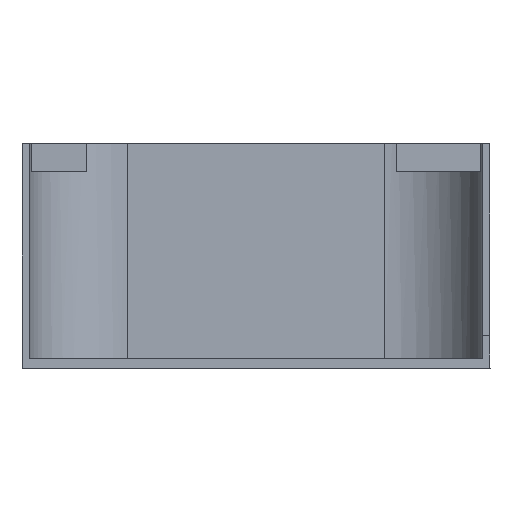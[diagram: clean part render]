
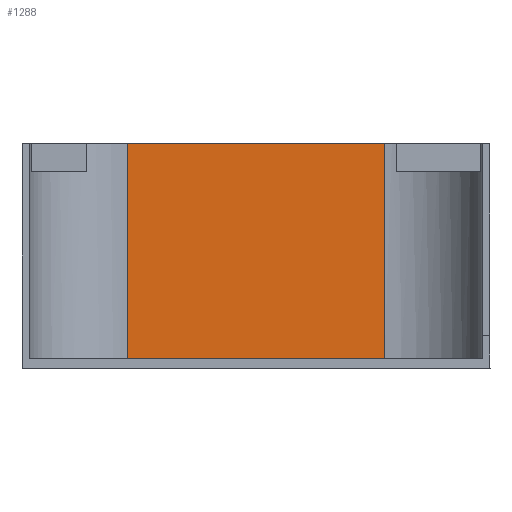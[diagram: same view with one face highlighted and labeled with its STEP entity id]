
A CAD part, left-side view. The second image highlights one B-rep face of the part: STEP entity #1288.
In plain terms, the highlighted planar face has unit normal (-1, 0, 0).
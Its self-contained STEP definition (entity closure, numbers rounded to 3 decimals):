
#118=CARTESIAN_POINT('',(317.,-55.,96.));
#119=VERTEX_POINT('',#118);
#122=DIRECTION('',(0.0,1.0,0.));
#123=VECTOR('',#122,110.0);
#124=LINE('',#118,#123);
#125=CARTESIAN_POINT('',(317.,55.,96.));
#126=VERTEX_POINT('',#125);
#127=EDGE_CURVE('',#119,#126,#124,.T.);
#583=CARTESIAN_POINT('',(317.0,55.,4.));
#584=VERTEX_POINT('',#583);
#587=DIRECTION('',(0.0,-1.0,0.));
#588=VECTOR('',#587,110.0);
#589=LINE('',#583,#588);
#590=CARTESIAN_POINT('',(317.0,-55.,4.));
#591=VERTEX_POINT('',#590);
#592=EDGE_CURVE('',#584,#591,#589,.T.);
#1214=DIRECTION('',(0.0,-1.0,0.0));
#1264=DIRECTION('',(0.,0.,1.0));
#1265=VECTOR('',#1264,92.);
#1266=LINE('',#590,#1265);
#1267=EDGE_CURVE('',#591,#119,#1266,.T.);
#1276=DIRECTION('',(-1.0,-0.0,0.));
#1277=CARTESIAN_POINT('',(317.0,55.,4.));
#1278=AXIS2_PLACEMENT_3D('',#1277,#1276,#1214);
#1279=PLANE('',#1278);
#1280=LINE('',#583,#1265);
#1281=EDGE_CURVE('',#584,#126,#1280,.T.);
#1282=ORIENTED_EDGE('',*,*,#1281,.F.);
#1283=ORIENTED_EDGE('',*,*,#127,.T.);
#1284=ORIENTED_EDGE('',*,*,#1267,.T.);
#1285=ORIENTED_EDGE('',*,*,#592,.T.);
#1286=EDGE_LOOP('',(#1285,#1284,#1283,#1282));
#1287=FACE_BOUND('',#1286,.T.);
#1288=ADVANCED_FACE('',(#1287),#1279,.T.);
